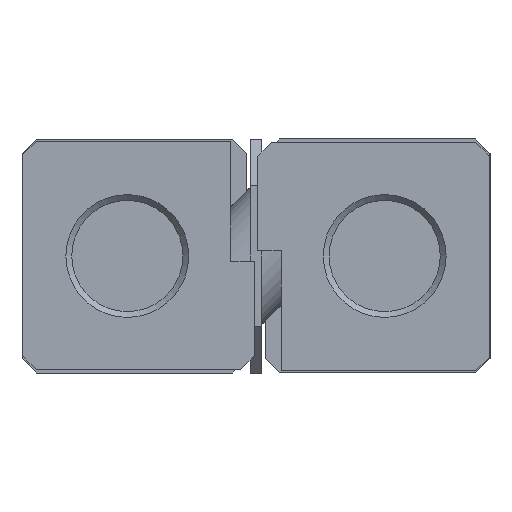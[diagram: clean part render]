
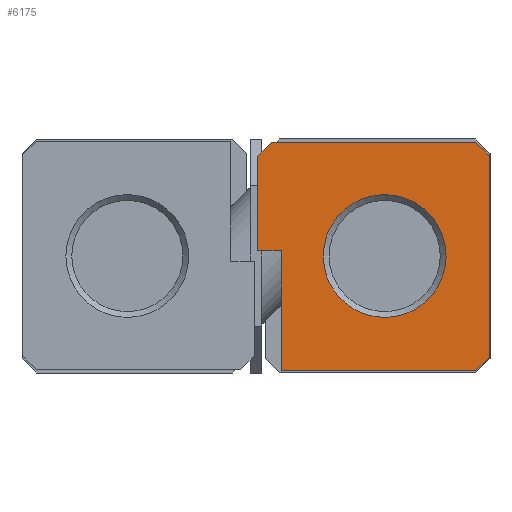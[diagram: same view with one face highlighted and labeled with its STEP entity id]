
A CAD part, left-side view. The second image highlights one B-rep face of the part: STEP entity #6175.
In plain terms, the highlighted planar face has unit normal (-1, 0, 0).
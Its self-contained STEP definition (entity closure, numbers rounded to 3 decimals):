
#241=CIRCLE('',#6561,5.25);
#500=ORIENTED_EDGE('',*,*,#2153,.F.);
#501=ORIENTED_EDGE('',*,*,#2135,.F.);
#502=ORIENTED_EDGE('',*,*,#2152,.F.);
#503=ORIENTED_EDGE('',*,*,#2150,.F.);
#504=ORIENTED_EDGE('',*,*,#2148,.F.);
#505=ORIENTED_EDGE('',*,*,#2146,.F.);
#506=ORIENTED_EDGE('',*,*,#2144,.F.);
#507=ORIENTED_EDGE('',*,*,#2142,.F.);
#508=ORIENTED_EDGE('',*,*,#2140,.F.);
#509=ORIENTED_EDGE('',*,*,#2138,.F.);
#2135=EDGE_CURVE('',#2974,#2975,#3590,.T.);
#2138=EDGE_CURVE('',#2975,#2976,#3593,.T.);
#2140=EDGE_CURVE('',#2976,#2977,#3595,.T.);
#2142=EDGE_CURVE('',#2977,#2978,#3597,.T.);
#2144=EDGE_CURVE('',#2978,#2979,#3599,.T.);
#2146=EDGE_CURVE('',#2979,#2980,#3601,.T.);
#2148=EDGE_CURVE('',#2980,#2981,#3603,.T.);
#2150=EDGE_CURVE('',#2981,#2982,#3605,.T.);
#2152=EDGE_CURVE('',#2982,#2974,#3607,.T.);
#2153=EDGE_CURVE('',#2983,#2983,#241,.T.);
#2974=VERTEX_POINT('',#9037);
#2975=VERTEX_POINT('',#9038);
#2976=VERTEX_POINT('',#9043);
#2977=VERTEX_POINT('',#9047);
#2978=VERTEX_POINT('',#9051);
#2979=VERTEX_POINT('',#9055);
#2980=VERTEX_POINT('',#9059);
#2981=VERTEX_POINT('',#9063);
#2982=VERTEX_POINT('',#9067);
#2983=VERTEX_POINT('',#9073);
#3590=LINE('',#9036,#4209);
#3593=LINE('',#9042,#4212);
#3595=LINE('',#9046,#4214);
#3597=LINE('',#9050,#4216);
#3599=LINE('',#9054,#4218);
#3601=LINE('',#9058,#4220);
#3603=LINE('',#9062,#4222);
#3605=LINE('',#9066,#4224);
#3607=LINE('',#9070,#4226);
#4209=VECTOR('',#7219,1000.);
#4212=VECTOR('',#7224,1000.);
#4214=VECTOR('',#7228,1000.);
#4216=VECTOR('',#7232,1000.);
#4218=VECTOR('',#7236,1000.);
#4220=VECTOR('',#7240,1000.);
#4222=VECTOR('',#7244,1000.);
#4224=VECTOR('',#7248,1000.);
#4226=VECTOR('',#7252,1000.);
#4807=EDGE_LOOP('',(#500));
#4808=EDGE_LOOP('',(#501,#502,#503,#504,#505,#506,#507,#508,#509));
#5370=FACE_BOUND('',#4807,.T.);
#5371=FACE_BOUND('',#4808,.T.);
#5923=PLANE('',#6560);
#6175=ADVANCED_FACE('',(#5370,#5371),#5923,.F.);
#6560=AXIS2_PLACEMENT_3D('',#9071,#7253,#7254);
#6561=AXIS2_PLACEMENT_3D('',#9072,#7255,#7256);
#7219=DIRECTION('',(0.,-1.,0.));
#7224=DIRECTION('',(0.,-0.707,-0.707));
#7228=DIRECTION('',(0.,0.,-1.));
#7232=DIRECTION('',(0.,0.707,-0.707));
#7236=DIRECTION('',(0.,1.,0.));
#7240=DIRECTION('',(0.,0.,1.));
#7244=DIRECTION('',(0.,1.,0.));
#7248=DIRECTION('',(0.,0.,1.));
#7252=DIRECTION('',(0.,-0.707,0.707));
#7253=DIRECTION('',(1.,0.,0.));
#7254=DIRECTION('',(0.,1.,0.));
#7255=DIRECTION('',(-1.,0.,0.));
#7256=DIRECTION('',(0.,0.,1.));
#9036=CARTESIAN_POINT('',(0.,-1.32,9.7));
#9037=CARTESIAN_POINT('',(0.,-1.32,9.7));
#9038=CARTESIAN_POINT('',(0.,-18.78,9.7));
#9042=CARTESIAN_POINT('',(0.,-18.78,9.7));
#9043=CARTESIAN_POINT('',(0.,-19.95,8.53));
#9046=CARTESIAN_POINT('',(0.,-19.95,8.53));
#9047=CARTESIAN_POINT('',(0.,-19.95,-8.63));
#9050=CARTESIAN_POINT('',(0.,-19.95,-8.63));
#9051=CARTESIAN_POINT('',(0.,-18.78,-9.8));
#9054=CARTESIAN_POINT('',(0.,-18.78,-9.8));
#9055=CARTESIAN_POINT('',(0.,-2.15,-9.8));
#9058=CARTESIAN_POINT('',(0.,-2.15,-9.8));
#9059=CARTESIAN_POINT('',(0.,-2.15,0.45));
#9062=CARTESIAN_POINT('',(0.,-2.15,0.45));
#9063=CARTESIAN_POINT('',(0.,-0.15,0.45));
#9066=CARTESIAN_POINT('',(0.,-0.15,0.45));
#9067=CARTESIAN_POINT('',(0.,-0.15,8.53));
#9070=CARTESIAN_POINT('',(0.,-0.15,8.53));
#9071=CARTESIAN_POINT('',(0.,0.,0.));
#9072=CARTESIAN_POINT('',(0.,-11.,0.));
#9073=CARTESIAN_POINT('',(0.,-11.,5.25));
